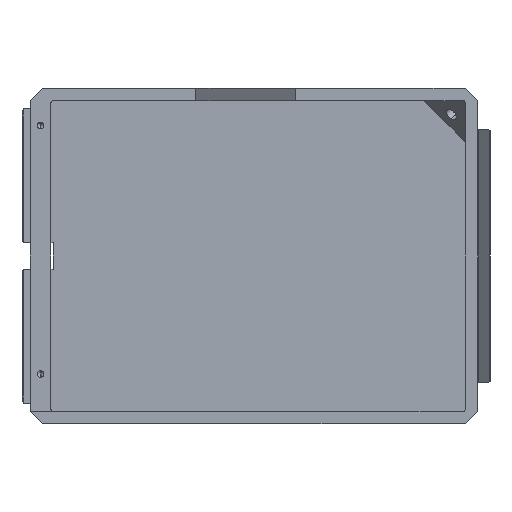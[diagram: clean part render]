
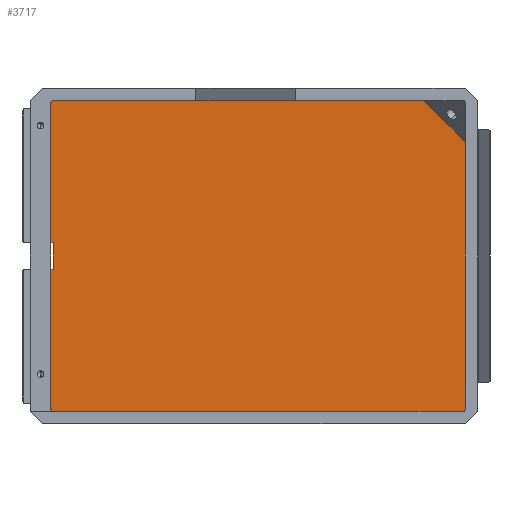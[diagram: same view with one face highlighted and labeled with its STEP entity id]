
A CAD part, front view. The second image highlights one B-rep face of the part: STEP entity #3717.
In plain terms, the highlighted planar face has unit normal (0, -1, 0).
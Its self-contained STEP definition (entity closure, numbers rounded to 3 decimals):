
#95 = ORIENTED_EDGE ( 'NONE', *, *, #9553, .T. ) ;
#193 = VERTEX_POINT ( 'NONE', #8058 ) ;
#400 = CIRCLE ( 'NONE', #1845, 0.5 ) ;
#475 = VERTEX_POINT ( 'NONE', #2501 ) ;
#772 = ORIENTED_EDGE ( 'NONE', *, *, #5630, .T. ) ;
#1162 = EDGE_CURVE ( 'NONE', #11142, #5631, #1666, .T. ) ;
#1244 = CARTESIAN_POINT ( 'NONE',  ( 5., 27., -37.5 ) ) ;
#1256 = AXIS2_PLACEMENT_3D ( 'NONE', #5972, #6936, #11083 ) ;
#1337 = CARTESIAN_POINT ( 'NONE',  ( 0., 27., 0. ) ) ;
#1343 = ORIENTED_EDGE ( 'NONE', *, *, #6822, .T. ) ;
#1398 = DIRECTION ( 'NONE',  ( 0., -1., 0. ) ) ;
#1588 = ORIENTED_EDGE ( 'NONE', *, *, #3338, .T. ) ;
#1654 = CARTESIAN_POINT ( 'NONE',  ( 5.5, 27., 3.25 ) ) ;
#1666 = LINE ( 'NONE', #10329, #2634 ) ;
#1756 = AXIS2_PLACEMENT_3D ( 'NONE', #1337, #5622, #9085 ) ;
#1834 = ORIENTED_EDGE ( 'NONE', *, *, #2752, .T. ) ;
#1845 = AXIS2_PLACEMENT_3D ( 'NONE', #8256, #9045, #2311 ) ;
#2268 = EDGE_CURVE ( 'NONE', #5078, #7812, #400, .T. ) ;
#2286 = ORIENTED_EDGE ( 'NONE', *, *, #10011, .F. ) ;
#2311 = DIRECTION ( 'NONE',  ( 1., 0., 0. ) ) ;
#2347 = ORIENTED_EDGE ( 'NONE', *, *, #2268, .T. ) ;
#2389 = LINE ( 'NONE', #2665, #9623 ) ;
#2421 = ORIENTED_EDGE ( 'NONE', *, *, #7053, .T. ) ;
#2501 = CARTESIAN_POINT ( 'NONE',  ( 104.5, 27., -37.5 ) ) ;
#2579 = CARTESIAN_POINT ( 'NONE',  ( 5.5, 27., 0. ) ) ;
#2634 = VECTOR ( 'NONE', #5115, 1000. ) ;
#2665 = CARTESIAN_POINT ( 'NONE',  ( 66.25, 27., 66.25 ) ) ;
#2752 = EDGE_CURVE ( 'NONE', #193, #7855, #2389, .T. ) ;
#2798 = VERTEX_POINT ( 'NONE', #1654 ) ;
#2882 = CARTESIAN_POINT ( 'NONE',  ( 5., 27., 37. ) ) ;
#2925 = VECTOR ( 'NONE', #7859, 1000. ) ;
#2979 = ORIENTED_EDGE ( 'NONE', *, *, #10941, .F. ) ;
#3180 = DIRECTION ( 'NONE',  ( 1., 0., 0. ) ) ;
#3321 = CARTESIAN_POINT ( 'NONE',  ( 5., 27., 3.25 ) ) ;
#3338 = EDGE_CURVE ( 'NONE', #475, #9752, #9009, .T. ) ;
#3478 = DIRECTION ( 'NONE',  ( 0., 0., 1. ) ) ;
#3514 = EDGE_CURVE ( 'NONE', #10928, #2798, #10338, .T. ) ;
#3599 = CIRCLE ( 'NONE', #1256, 0.5 ) ;
#3717 = ADVANCED_FACE ( 'NONE', ( #7434 ), #4886, .T. ) ;
#3787 = CARTESIAN_POINT ( 'NONE',  ( 95., 27., 37.5 ) ) ;
#4120 = AXIS2_PLACEMENT_3D ( 'NONE', #7388, #1398, #4948 ) ;
#4171 = LINE ( 'NONE', #8427, #7650 ) ;
#4232 = DIRECTION ( 'NONE',  ( -1., 0., 0. ) ) ;
#4274 = CARTESIAN_POINT ( 'NONE',  ( 105., 27., -37. ) ) ;
#4516 = CARTESIAN_POINT ( 'NONE',  ( 5., 27., -37. ) ) ;
#4886 = PLANE ( 'NONE',  #1756 ) ;
#4948 = DIRECTION ( 'NONE',  ( 1., 0., 0. ) ) ;
#5078 = VERTEX_POINT ( 'NONE', #7012 ) ;
#5115 = DIRECTION ( 'NONE',  ( 0., 0., -1. ) ) ;
#5343 = VERTEX_POINT ( 'NONE', #5815 ) ;
#5452 = ORIENTED_EDGE ( 'NONE', *, *, #9799, .T. ) ;
#5622 = DIRECTION ( 'NONE',  ( 0., -1., 0. ) ) ;
#5630 = EDGE_CURVE ( 'NONE', #7812, #10979, #8871, .T. ) ;
#5631 = VERTEX_POINT ( 'NONE', #4516 ) ;
#5787 = CARTESIAN_POINT ( 'NONE',  ( 5., 27., -3.25 ) ) ;
#5809 = VECTOR ( 'NONE', #3478, 1000. ) ;
#5815 = CARTESIAN_POINT ( 'NONE',  ( 5.5, 27., -37.5 ) ) ;
#5964 = LINE ( 'NONE', #6870, #5809 ) ;
#5972 = CARTESIAN_POINT ( 'NONE',  ( 5.5, 27., -37. ) ) ;
#6028 = DIRECTION ( 'NONE',  ( 0., 0., 1. ) ) ;
#6123 = ORIENTED_EDGE ( 'NONE', *, *, #1162, .T. ) ;
#6267 = CARTESIAN_POINT ( 'NONE',  ( 5., 27., 37.5 ) ) ;
#6326 = DIRECTION ( 'NONE',  ( 1., 0., 0. ) ) ;
#6822 = EDGE_CURVE ( 'NONE', #5343, #475, #8987, .T. ) ;
#6870 = CARTESIAN_POINT ( 'NONE',  ( 105., 27., 37.5 ) ) ;
#6936 = DIRECTION ( 'NONE',  ( 0., -1., 0. ) ) ;
#7004 = LINE ( 'NONE', #10356, #2925 ) ;
#7012 = CARTESIAN_POINT ( 'NONE',  ( 5.5, 27., 37.5 ) ) ;
#7053 = EDGE_CURVE ( 'NONE', #5631, #5343, #3599, .T. ) ;
#7388 = CARTESIAN_POINT ( 'NONE',  ( 104.5, 27., -37. ) ) ;
#7434 = FACE_OUTER_BOUND ( 'NONE', #8994, .T. ) ;
#7650 = VECTOR ( 'NONE', #4232, 1000. ) ;
#7812 = VERTEX_POINT ( 'NONE', #2882 ) ;
#7855 = VERTEX_POINT ( 'NONE', #3787 ) ;
#7859 = DIRECTION ( 'NONE',  ( -1., 0., 0. ) ) ;
#7907 = VECTOR ( 'NONE', #6028, 1000. ) ;
#8058 = CARTESIAN_POINT ( 'NONE',  ( 105., 27., 27.5 ) ) ;
#8091 = VECTOR ( 'NONE', #10636, 1000. ) ;
#8256 = CARTESIAN_POINT ( 'NONE',  ( 5.5, 27., 37. ) ) ;
#8427 = CARTESIAN_POINT ( 'NONE',  ( 0., 27., 3.25 ) ) ;
#8435 = VECTOR ( 'NONE', #6326, 1000. ) ;
#8871 = LINE ( 'NONE', #6267, #8091 ) ;
#8987 = LINE ( 'NONE', #1244, #8435 ) ;
#8994 = EDGE_LOOP ( 'NONE', ( #2979, #10715, #2286, #6123, #2421, #1343, #1588, #5452, #1834, #95, #2347, #772 ) ) ;
#9009 = CIRCLE ( 'NONE', #4120, 0.5 ) ;
#9045 = DIRECTION ( 'NONE',  ( 0., -1., 0. ) ) ;
#9085 = DIRECTION ( 'NONE',  ( 1., 0., 0. ) ) ;
#9402 = DIRECTION ( 'NONE',  ( -0.707, 0., 0.707 ) ) ;
#9436 = VECTOR ( 'NONE', #3180, 1000. ) ;
#9553 = EDGE_CURVE ( 'NONE', #7855, #5078, #7004, .T. ) ;
#9623 = VECTOR ( 'NONE', #9402, 1000. ) ;
#9752 = VERTEX_POINT ( 'NONE', #4274 ) ;
#9799 = EDGE_CURVE ( 'NONE', #9752, #193, #5964, .T. ) ;
#10011 = EDGE_CURVE ( 'NONE', #11142, #10928, #11005, .T. ) ;
#10296 = CARTESIAN_POINT ( 'NONE',  ( 5.5, 27., -3.25 ) ) ;
#10329 = CARTESIAN_POINT ( 'NONE',  ( 5., 27., 37.5 ) ) ;
#10338 = LINE ( 'NONE', #2579, #7907 ) ;
#10356 = CARTESIAN_POINT ( 'NONE',  ( 5., 27., 37.5 ) ) ;
#10636 = DIRECTION ( 'NONE',  ( 0., 0., -1. ) ) ;
#10715 = ORIENTED_EDGE ( 'NONE', *, *, #3514, .F. ) ;
#10894 = CARTESIAN_POINT ( 'NONE',  ( 0., 27., -3.25 ) ) ;
#10928 = VERTEX_POINT ( 'NONE', #10296 ) ;
#10941 = EDGE_CURVE ( 'NONE', #2798, #10979, #4171, .T. ) ;
#10979 = VERTEX_POINT ( 'NONE', #3321 ) ;
#11005 = LINE ( 'NONE', #10894, #9436 ) ;
#11083 = DIRECTION ( 'NONE',  ( 1., 0., 0. ) ) ;
#11142 = VERTEX_POINT ( 'NONE', #5787 ) ;
